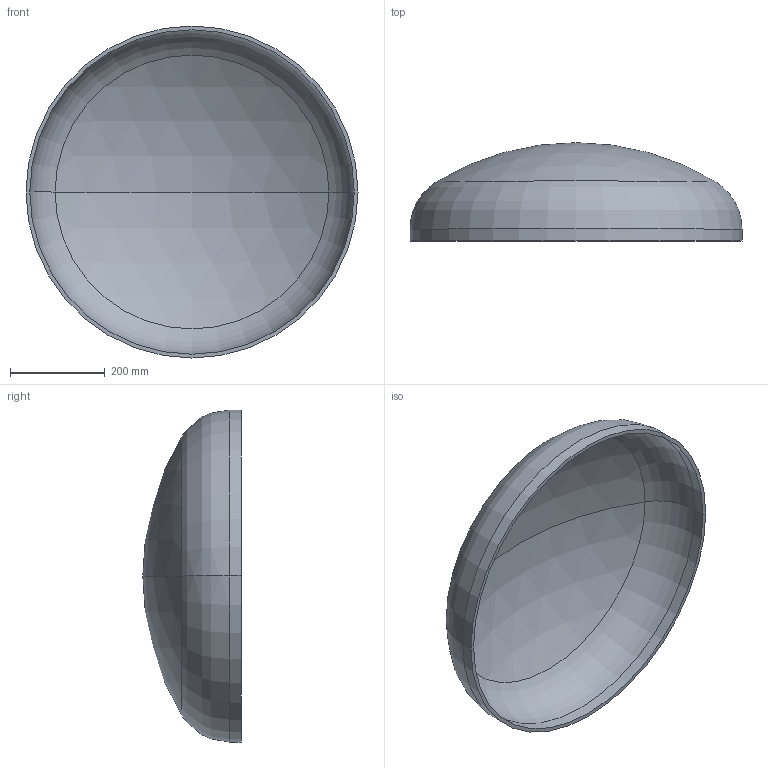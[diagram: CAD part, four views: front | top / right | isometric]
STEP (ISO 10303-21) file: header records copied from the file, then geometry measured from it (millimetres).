
FILE_DESCRIPTION (( 'STEP AP203' ), '1' );
FILE_NAME ('DIN 28013 Korbbogenform_-_Boden DIN 28013 - 700 x 25 - I - s=8.step', '2016-07-01T08:03:51', ( '' ), ( '' ), 'SwSTEP 2.0', 'SolidWorks 2013', '' );
FILE_SCHEMA (( 'CONFIG_CONTROL_DESIGN' ));
Length unit declared in the file: millimetre
Products named in the file (1): DIN 28013 Korbbogenform_-_Boden DIN 28013 - 700 x 25 - I - s=8
Bounding box: 700 x 207.41 x 700 mm (x, y, z)
Volume: 4651727.8 mm3; surface area: 1180457.4 mm2
Topology: 1 solids, 1 shells, 13 faces, 24 edges, 14 vertices
Faces by surface type: torus 4, cylinder 4, sphere 4, plane 1
Entity records: 407 total; most frequent: DIRECTION 72, CARTESIAN_POINT 52, ORIENTED_EDGE 48, AXIS2_PLACEMENT_3D 34, EDGE_CURVE 24, CIRCLE 20, VERTEX_POINT 14, EDGE_LOOP 14
